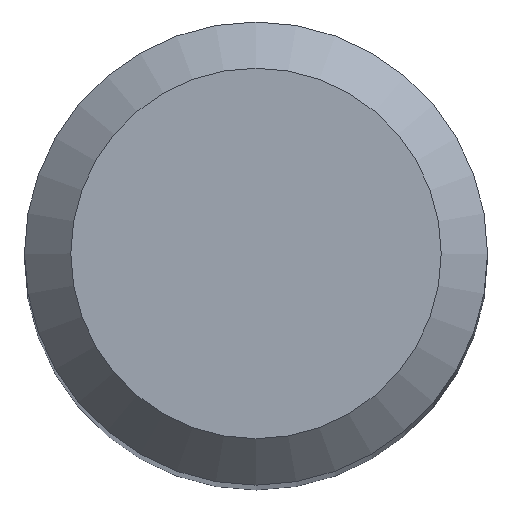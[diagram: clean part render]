
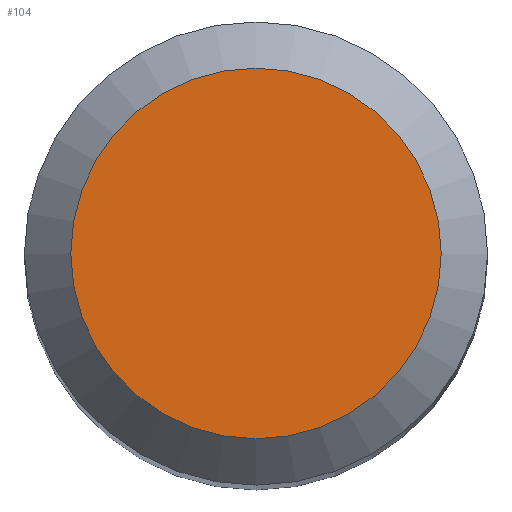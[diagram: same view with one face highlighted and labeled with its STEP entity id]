
A CAD part, top view. The second image highlights one B-rep face of the part: STEP entity #104.
In plain terms, the highlighted planar face has unit normal (0, 0, 1).
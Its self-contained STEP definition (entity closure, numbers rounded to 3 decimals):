
#88=CARTESIAN_POINT('',(3.2,0.0,90.0));
#89=DIRECTION('',(0.0,0.0,1.0));
#90=DIRECTION('',(1.0,0.0,0.0));
#91=AXIS2_PLACEMENT_3D('',#88,#89,#90);
#92=PLANE('',#91);
#93=CARTESIAN_POINT('',(-3.2,0.0,90.0));
#94=VERTEX_POINT('',#93);
#95=CARTESIAN_POINT('',(0.0,0.0,90.0));
#96=DIRECTION('',(0.0,0.0,-1.0));
#97=DIRECTION('',(-1.0,0.0,0.0));
#98=AXIS2_PLACEMENT_3D('',#95,#96,#97);
#99=CIRCLE('',#98,3.2);
#100=EDGE_CURVE('',#94,#94,#99,.T.);
#101=ORIENTED_EDGE('',*,*,#100,.F.);
#102=EDGE_LOOP('',(#101));
#103=FACE_OUTER_BOUND('',#102,.T.);
#104=ADVANCED_FACE('',(#103),#92,.T.);
